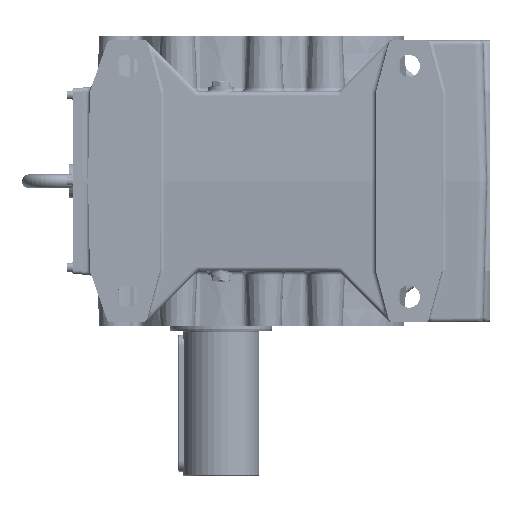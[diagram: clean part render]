
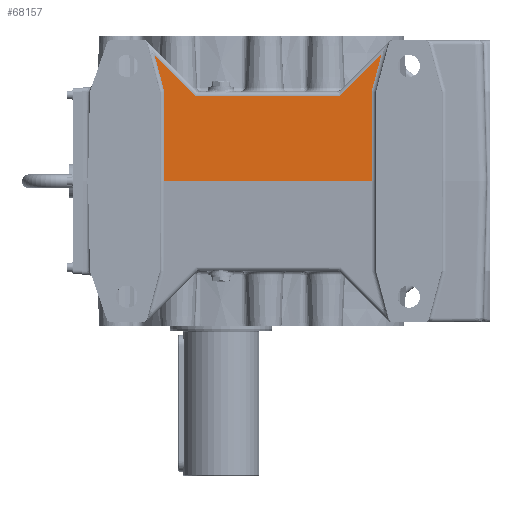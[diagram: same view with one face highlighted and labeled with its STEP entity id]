
A CAD part, left-side view. The second image highlights one B-rep face of the part: STEP entity #68157.
In plain terms, the highlighted planar face has unit normal (-1, 0, 0.026).
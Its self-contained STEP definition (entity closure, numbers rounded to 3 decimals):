
#43662=CARTESIAN_POINT('',(-192.128,29.571,100.131));
#43663=VERTEX_POINT('',#43662);
#43671=CARTESIAN_POINT('',(-192.128,-139.571,100.131));
#43672=VERTEX_POINT('',#43671);
#43673=CARTESIAN_POINT('',(-192.128,29.571,100.131));
#43674=DIRECTION('',(0.0,-1.0,0.0));
#43675=VECTOR('',#43674,169.142);
#43676=LINE('',#43673,#43675);
#43677=EDGE_CURVE('',#43663,#43672,#43676,.T.);
#49821=CARTESIAN_POINT('',(-191.986,-176.5,105.524));
#49822=VERTEX_POINT('',#49821);
#49877=CARTESIAN_POINT('',(-190.86,-187.967,148.527));
#49878=VERTEX_POINT('',#49877);
#49886=CARTESIAN_POINT('',(-190.86,-187.967,148.527));
#49887=DIRECTION('',(-0.025,0.258,-0.966));
#49888=VECTOR('',#49887,44.52);
#49889=LINE('',#49886,#49888);
#49890=EDGE_CURVE('',#49878,#49822,#49889,.T.);
#50219=CARTESIAN_POINT('',(-194.75,66.5,0.0));
#50220=VERTEX_POINT('',#50219);
#50304=CARTESIAN_POINT('',(-191.986,66.5,105.524));
#50305=VERTEX_POINT('',#50304);
#50384=CARTESIAN_POINT('',(-190.86,77.967,148.527));
#50385=VERTEX_POINT('',#50384);
#50386=CARTESIAN_POINT('',(-191.986,66.5,105.524));
#50387=DIRECTION('',(0.025,0.258,0.966));
#50388=VECTOR('',#50387,44.52);
#50389=LINE('',#50386,#50388);
#50390=EDGE_CURVE('',#50305,#50385,#50389,.T.);
#51511=CARTESIAN_POINT('',(-194.75,66.5,0.));
#51512=DIRECTION('',(0.026,0.0,1.));
#51513=VECTOR('',#51512,105.561);
#51514=LINE('',#51511,#51513);
#51515=EDGE_CURVE('',#50220,#50305,#51514,.T.);
#52262=CARTESIAN_POINT('',(-194.75,-176.5,0.0));
#52263=VERTEX_POINT('',#52262);
#52287=CARTESIAN_POINT('',(-191.986,-176.5,105.524));
#52288=DIRECTION('',(-0.026,0.0,-1.));
#52289=VECTOR('',#52288,105.561);
#52290=LINE('',#52287,#52289);
#52291=EDGE_CURVE('',#49822,#52263,#52290,.T.);
#54509=CARTESIAN_POINT('',(-192.128,-139.571,100.131));
#54510=DIRECTION('',(0.019,-0.707,0.707));
#54511=VECTOR('',#54510,68.455);
#54512=LINE('',#54509,#54511);
#54513=EDGE_CURVE('',#43672,#49878,#54512,.T.);
#54655=CARTESIAN_POINT('',(-190.86,77.967,148.527));
#54656=DIRECTION('',(-0.019,-0.707,-0.707));
#54657=VECTOR('',#54656,68.455);
#54658=LINE('',#54655,#54657);
#54659=EDGE_CURVE('',#50385,#43663,#54658,.T.);
#68137=CARTESIAN_POINT('',(-194.749,-307.0,0.036));
#68138=DIRECTION('',(-1.,0.,0.026));
#68139=DIRECTION('',(0.026,0.,1.));
#68140=AXIS2_PLACEMENT_3D('',#68137,#68138,#68139);
#68141=PLANE('',#68140);
#68142=ORIENTED_EDGE('',*,*,#51515,.F.);
#68143=CARTESIAN_POINT('',(-194.75,66.5,0.0));
#68144=DIRECTION('',(0.0,-1.0,0.0));
#68145=VECTOR('',#68144,243.0);
#68146=LINE('',#68143,#68145);
#68147=EDGE_CURVE('',#50220,#52263,#68146,.T.);
#68148=ORIENTED_EDGE('',*,*,#68147,.T.);
#68149=ORIENTED_EDGE('',*,*,#52291,.F.);
#68150=ORIENTED_EDGE('',*,*,#49890,.F.);
#68151=ORIENTED_EDGE('',*,*,#54513,.F.);
#68152=ORIENTED_EDGE('',*,*,#43677,.F.);
#68153=ORIENTED_EDGE('',*,*,#54659,.F.);
#68154=ORIENTED_EDGE('',*,*,#50390,.F.);
#68155=EDGE_LOOP('',(#68142,#68148,#68149,#68150,#68151,#68152,#68153,#68154));
#68156=FACE_OUTER_BOUND('',#68155,.T.);
#68157=ADVANCED_FACE('',(#68156),#68141,.T.);
